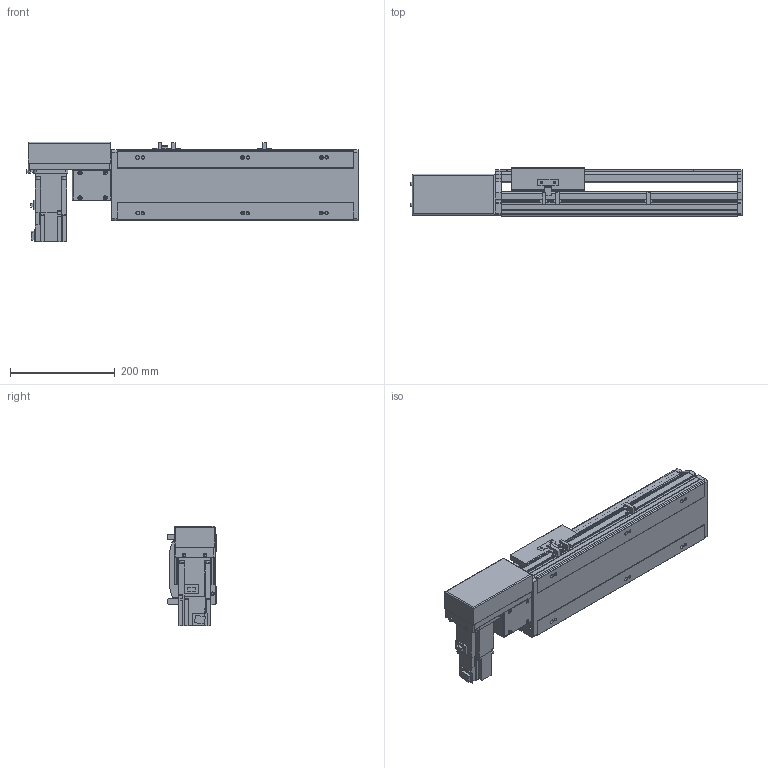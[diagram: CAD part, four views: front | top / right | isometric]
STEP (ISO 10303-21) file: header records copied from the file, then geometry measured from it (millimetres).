
FILE_DESCRIPTION( ( 'STEP AP214' ), '1' );
FILE_NAME( 'x:/temp/worker_6/temp/exporttempdir_5396_47_uMqlO/format_0/PBS140S-P40-S200-R-T40-C1-N(0).stp', '2022-06-09T00:11:57', ( 'License CC BY-ND 4.0' ), ( 'CADENAS' ), ' ', 'PARTsolutions', ' ' );
FILE_SCHEMA( ( 'AUTOMOTIVE_DESIGN { 1 0 10303 214 1 1 1 1 }' ) );
Length unit declared in the file: millimetre
Products named in the file (7): PBS140S-P40-S200-R-T40-C1-N(0); _PBS140S-S200()_body; _PBS140ST-R_motors; _T40-p1; _PBS140S_sliser; _PBS140S_plant; _PBS140S_sensor
Assembly tree (8 placements, depth 2):
  PBS140S-P40-S200-R-T40-C1-N(0)
    _PBS140S-S200()_body
    _PBS140ST-R_motors
    _T40-p1
    _PBS140S_sliser
    _PBS140S_plant
    _PBS140S_sensor  x3
Bounding box: 633 x 93 x 189.7 mm (x, y, z)
Volume: 3396996.7 mm3; surface area: 622757.5 mm2
Topology: 8 solids, 8 shells, 1019 faces, 2711 edges, 1775 vertices
Faces by surface type: plane 672, cylinder 305, cone 32, sphere 8, torus 2
Full cylindrical faces by diameter (mm): 3.242 x4, 4 x2, 4.134 x4, 4.4 x8, 4.5 x2, 4.8 x4, 4.917 x14, 5.5 x7, 6 x2, 7 x8, 7.5 x8, 8 x12, 8.5 x4, 10.5 x6, 14 x1, 30 x2, 50 x2
Entity records: 37126 total; most frequent: CARTESIAN_POINT 5566, DIRECTION 4998, ORIENTED_EDGE 4762, EDGE_CURVE 2381, AXIS2_PLACEMENT_3D 1709, VERTEX_POINT 1633, LINE 1580, VECTOR 1580
